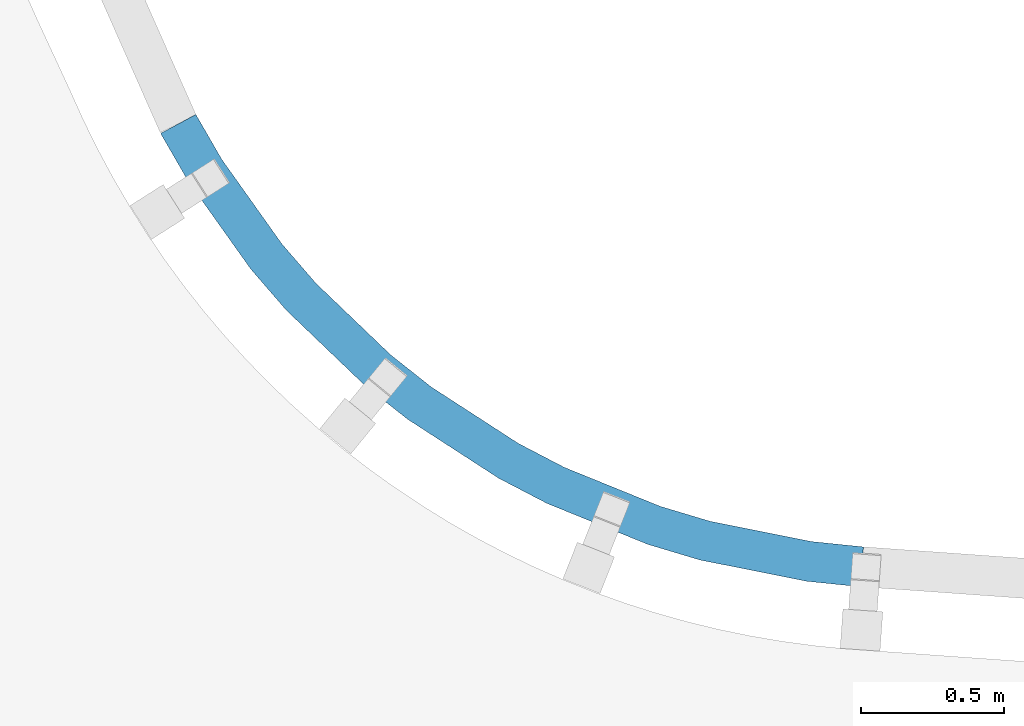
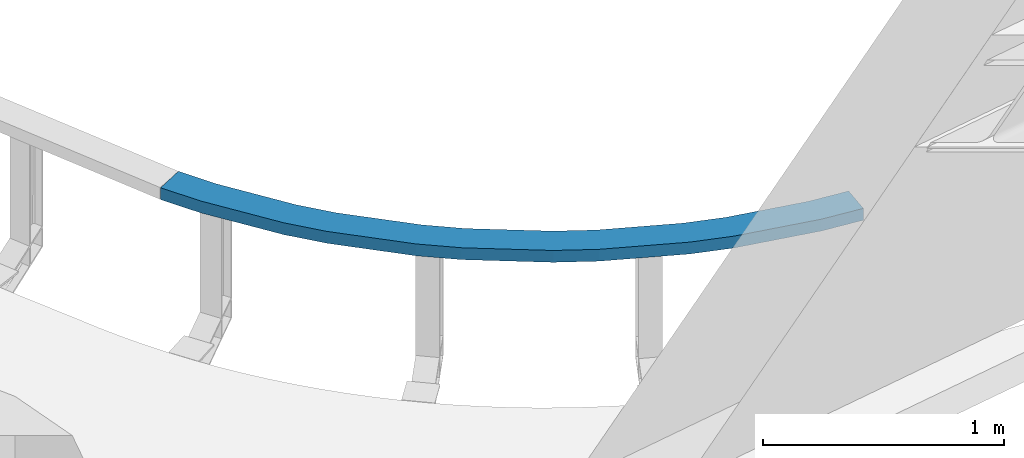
# One storey, part 55 of 68: 1 beam.
"""IFC2X3 building model written with IfcOpenShell, lengths in millimetres."""

import ifcopenshell
import ifcopenshell.guid

model = None  # the IFC model being written
_history = None  # IfcOwnerHistory: only IFC2X3 demands one
_inside = {}  # id of a spatial element -> (the spatial element, [elements in it])
_under = {}  # id of a project, library or spatial element -> (it, [spatial elements below it])
_declared = {}  # id of a project -> (the project, [libraries it declares])
_typed = {}  # id of a type object -> (the type object, [elements of that type])
_made_of = {}  # id of a material, layer set ... -> (it, [elements and type objects made of it])


def new_model(schema):
    """Start an empty IFC model of exactly this schema.

    Asked for "IFC4X3", IfcOpenShell would pick the latest addendum, in which some entities
    have other attributes; the version numbers below select the first issue.
    IFC2X3 requires an IfcOwnerHistory on every rooted entity: one is made here for all.
    """
    global model, _history
    if schema == "IFC4X3":
        model = ifcopenshell.file(schema_version=(4, 3, 0, 0))
    else:
        model = ifcopenshell.file(schema=schema)
    _inside.clear()
    _under.clear()
    _declared.clear()
    _typed.clear()
    _made_of.clear()
    _history = None
    if model.schema == "IFC2X3":
        org = make("IfcOrganization", Name="unknown")
        user = make(
            "IfcPersonAndOrganization",
            ThePerson=make("IfcPerson", FamilyName="unknown"),
            TheOrganization=org,
        )
        app = make(
            "IfcApplication",
            ApplicationDeveloper=org,
            Version="unknown",
            ApplicationFullName="unknown",
            ApplicationIdentifier="unknown",
        )
        _history = make(
            "IfcOwnerHistory",
            OwningUser=user,
            OwningApplication=app,
            ChangeAction="ADDED",
            CreationDate=0,
        )
    return model


def make(cls, **values):
    """One entity of the class cls with the attributes given. An attribute that is None is left unset."""
    return model.create_entity(
        cls, **{name: value for name, value in values.items() if value is not None}
    )


def entity(cls, *values):
    """Any entity or typed value of the class cls, its attributes in the order of the schema. None: left unset."""
    e = model.create_entity(cls)
    for i, value in enumerate(values):
        if value is not None:
            e[i] = value
    return e


def rooted(cls, **values):
    """An entity with a GlobalId (a new one), such as an element, a storey or a relation."""
    return make(cls, GlobalId=ifcopenshell.guid.new(), OwnerHistory=_history, **values)


def si_unit(unit_type, name, prefix=None):
    """IfcSIUnit, for example si_unit("LENGTHUNIT", "METRE", prefix="MILLI")."""
    return make("IfcSIUnit", UnitType=unit_type, Prefix=prefix, Name=name)


def converted_unit(unit_type, name, factor, base, dimensions=None, offset=None):
    """IfcConversionBasedUnit, such as the inch: factor (a typed value) times the base unit."""
    return make(
        "IfcConversionBasedUnit"
        if offset is None
        else "IfcConversionBasedUnitWithOffset",
        ConversionOffset=offset,
        Dimensions=None
        if dimensions is None
        else entity("IfcDimensionalExponents", *dimensions),
        UnitType=unit_type,
        Name=name,
        ConversionFactor=make(
            "IfcMeasureWithUnit", ValueComponent=factor, UnitComponent=base
        ),
    )


def derived_unit(unit_type, elements):
    """IfcDerivedUnit: a product of units, each with its exponent."""
    return make(
        "IfcDerivedUnit",
        Elements=[
            make("IfcDerivedUnitElement", Unit=unit, Exponent=power)
            for unit, power in elements
        ],
        UnitType=unit_type,
    )


def assignment(units):
    """IfcUnitAssignment: the units of a project."""
    return None if units is None else make("IfcUnitAssignment", Units=units)


def point(xyz):
    """IfcCartesianPoint."""
    return None if xyz is None else make("IfcCartesianPoint", Coordinates=xyz)


def direction(xyz):
    """IfcDirection."""
    return None if xyz is None else make("IfcDirection", DirectionRatios=xyz)


def frame(location, z_axis=None, x_axis=None):
    """IfcAxis2Placement3D, a coordinate frame: its origin and axes. An axis left out is left unset."""
    return make(
        "IfcAxis2Placement3D",
        Location=point(location),
        Axis=direction(z_axis),
        RefDirection=direction(x_axis),
    )


def origin():
    """The frame at (0, 0, 0) with its axes left unset."""
    return frame((0.0, 0.0, 0.0))


def place(relative_to, where):
    """IfcLocalPlacement: puts the frame where relative to a parent placement (None: the world)."""
    return make(
        "IfcLocalPlacement", PlacementRelTo=relative_to, RelativePlacement=where
    )


def context(
    kind, dimensions, precision=None, world=None, true_north=None, identifier=None
):
    """IfcGeometricRepresentationContext, for example the 3D "Model" context."""
    return make(
        "IfcGeometricRepresentationContext",
        ContextIdentifier=identifier,
        ContextType=kind,
        CoordinateSpaceDimension=dimensions,
        Precision=precision,
        WorldCoordinateSystem=world,
        TrueNorth=true_north,
    )


def subcontext(parent, identifier, kind, view, scale=None):
    """IfcGeometricRepresentationSubContext, for example "Body" below "Model"."""
    return make(
        "IfcGeometricRepresentationSubContext",
        ContextIdentifier=identifier,
        ContextType=kind,
        ParentContext=parent,
        TargetScale=scale,
        TargetView=view,
    )


def project(units=None, contexts=None):
    """IfcProject with its units and contexts."""
    return rooted(
        "IfcProject",
        Name="project",
        RepresentationContexts=contexts,
        UnitsInContext=assignment(units),
    )


def spatial(cls, under=None, at=None, **own):
    """A site, building, storey or space (cls), placed at a placement, below another one or the project."""
    s = rooted(cls, ObjectPlacement=at, **own)
    if under is not None:
        _under.setdefault(under.id(), (under, []))[1].append(s)
    return s


def faces_of(points, faces, orient=None, outer=None):
    """IfcFace entities. A face is a list of loops; a loop is a list of indices into points, from 0.

    orient and outer hold one flag for each loop. By default every Orientation is true, the
    first loop of a face is its IfcFaceOuterBound and the others are IfcFaceBound.
    """
    made = []
    for i, loops in enumerate(faces):
        bounds = []
        for j, loop in enumerate(loops):
            is_outer = j == 0 if outer is None else outer[i][j]
            bounds.append(
                make(
                    "IfcFaceOuterBound" if is_outer else "IfcFaceBound",
                    Bound=make("IfcPolyLoop", Polygon=[points[k] for k in loop]),
                    Orientation=True if orient is None else orient[i][j],
                )
            )
        made.append(make("IfcFace", Bounds=bounds))
    return made


def faceted_brep(points, faces, orient=None, outer=None, voids=None):
    """IfcFacetedBrep: a solid bounded by flat faces; with voids (closed shells), ...WithVoids."""
    shared = [point(p) for p in points]
    hull = make("IfcClosedShell", CfsFaces=faces_of(shared, faces, orient, outer))
    if voids is None:
        return make("IfcFacetedBrep", Outer=hull)
    return make(
        "IfcFacetedBrepWithVoids",
        Outer=hull,
        Voids=[
            make(cls, CfsFaces=faces_of(shared, fs, o, b)) for cls, fs, o, b in voids
        ],
    )


def shape(context_of_items, identifier, shape_type, items):
    """IfcShapeRepresentation: the items that make up one representation, for example the "Body"."""
    return make(
        "IfcShapeRepresentation",
        ContextOfItems=context_of_items,
        RepresentationIdentifier=identifier,
        RepresentationType=shape_type,
        Items=items,
    )


def material(Name=None, Category=None):
    """IfcMaterial."""
    return make("IfcMaterial", Name=Name, Category=Category)


def made_of(thing, what):
    """Note that an element or type object is made of a material, layer set ...; save() writes the relation."""
    if what is not None:
        _made_of.setdefault(what.id(), (what, []))[1].append(thing)
    return thing


def type_object(cls, material=None, **own):
    """A type object (cls), such as IfcWallType, which elements share."""
    return made_of(rooted(cls, **own), material)


def element(
    cls,
    number,
    at=None,
    inside=None,
    cuts=None,
    type_object=None,
    material=None,
    context=None,
    identifier="Body",
    shape_type=None,
    held_by="IfcProductDefinitionShape",
    body=None,
    shapes=None,
    **own,
):
    """One element of the class cls, such as IfcWall. Its Tag is "e" and its number.

    at: its placement. inside: the storey or other place that contains it. cuts: it is an
    opening in that element (IfcRelVoidsElement). A single representation is given by context,
    identifier, shape_type and body (its items); several are given by shapes. held_by: the class
    of the entity that holds the representations. save() writes the other relations.
    """
    e = rooted(cls, Tag="e%d" % number, ObjectPlacement=at, **own)
    if body is not None:
        shapes = [shape(context, identifier, shape_type, body)]
    if shapes is not None:
        e.Representation = make(held_by, Representations=shapes)
    if inside is not None:
        _inside.setdefault(inside.id(), (inside, []))[1].append(e)
    if cuts is not None:
        rooted(
            "IfcRelVoidsElement", RelatingBuildingElement=cuts, RelatedOpeningElement=e
        )
    if type_object is not None:
        _typed.setdefault(type_object.id(), (type_object, []))[1].append(e)
    return made_of(e, material)


def aggregate(whole, parts):
    """IfcRelAggregates: a whole, such as a stair, and the parts it consists of."""
    return rooted("IfcRelAggregates", RelatingObject=whole, RelatedObjects=parts)


def save(model, path):
    """Write the relations noted so far, then the file.

    IfcRelAggregates (storeys below a building ...), IfcRelContainedInSpatialStructure (elements
    in a storey), IfcRelDefinesByType, IfcRelAssociatesMaterial and IfcRelDeclares: one each for
    every whole, place, type object, material and project.
    """
    for whole, parts in _under.values():
        aggregate(whole, parts)
    for where, things in _inside.values():
        rooted(
            "IfcRelContainedInSpatialStructure",
            RelatedElements=things,
            RelatingStructure=where,
        )
    for kind, things in _typed.values():
        rooted("IfcRelDefinesByType", RelatedObjects=things, RelatingType=kind)
    for what, things in _made_of.values():
        rooted("IfcRelAssociatesMaterial", RelatedObjects=things, RelatingMaterial=what)
    for by, libraries in _declared.values():
        rooted("IfcRelDeclares", RelatingContext=by, RelatedDefinitions=libraries)
    model.write(path)


model = new_model("IFC2X3")

# Units and contexts
model_context = context("Model", 3, precision=0.01, world=origin(), true_north=direction((6.12303176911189e-17, 1.0)))
body_context = subcontext(model_context, "Body", "Model", "MODEL_VIEW")
ifc_project = project(units=[si_unit("LENGTHUNIT", "METRE", prefix="MILLI"), si_unit("AREAUNIT", "SQUARE_METRE", prefix="MILLI"), si_unit("VOLUMEUNIT", "CUBIC_METRE"), converted_unit("PLANEANGLEUNIT", "DEGREE", entity("IfcRatioMeasure", 0.0174532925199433), si_unit("PLANEANGLEUNIT", "RADIAN"), dimensions=[0, 0, 0, 0, 0, 0, 0]), si_unit("MASSUNIT", "GRAM", prefix="KILO"), derived_unit("MASSDENSITYUNIT", [(si_unit("MASSUNIT", "GRAM", prefix="KILO"), 1), (si_unit("LENGTHUNIT", "METRE"), -3)]), derived_unit("MOMENTOFINERTIAUNIT", [(si_unit("LENGTHUNIT", "METRE"), 4)]), si_unit("TIMEUNIT", "SECOND"), si_unit("FREQUENCYUNIT", "HERTZ"), si_unit("THERMODYNAMICTEMPERATUREUNIT", "DEGREE_CELSIUS"), derived_unit("THERMALTRANSMITTANCEUNIT", [(si_unit("MASSUNIT", "GRAM", prefix="KILO"), 1), (si_unit("THERMODYNAMICTEMPERATUREUNIT", "KELVIN"), -1), (si_unit("TIMEUNIT", "SECOND"), -3)]), derived_unit("VOLUMETRICFLOWRATEUNIT", [(si_unit("LENGTHUNIT", "METRE"), 3), (si_unit("TIMEUNIT", "SECOND"), -1)]), si_unit("ELECTRICCURRENTUNIT", "AMPERE"), si_unit("ELECTRICVOLTAGEUNIT", "VOLT"), si_unit("POWERUNIT", "WATT"), si_unit("FORCEUNIT", "NEWTON", prefix="KILO"), si_unit("ILLUMINANCEUNIT", "LUX"), si_unit("LUMINOUSFLUXUNIT", "LUMEN"), si_unit("LUMINOUSINTENSITYUNIT", "CANDELA"), derived_unit("USERDEFINED", [(si_unit("MASSUNIT", "GRAM", prefix="KILO"), -1), (si_unit("LENGTHUNIT", "METRE"), -2), (si_unit("TIMEUNIT", "SECOND"), 3), (si_unit("LUMINOUSFLUXUNIT", "LUMEN"), 1)]), derived_unit("LINEARVELOCITYUNIT", [(si_unit("LENGTHUNIT", "METRE"), 1), (si_unit("TIMEUNIT", "SECOND"), -1)]), si_unit("PRESSUREUNIT", "PASCAL"), derived_unit("USERDEFINED", [(si_unit("LENGTHUNIT", "METRE"), -2), (si_unit("MASSUNIT", "GRAM", prefix="KILO"), 1), (si_unit("TIMEUNIT", "SECOND"), -2)]), derived_unit("LINEARFORCEUNIT", [(si_unit("MASSUNIT", "GRAM", prefix="KILO"), 1), (si_unit("LENGTHUNIT", "METRE"), 1), (si_unit("TIMEUNIT", "SECOND"), -2), (si_unit("LENGTHUNIT", "METRE"), -1)]), derived_unit("PLANARFORCEUNIT", [(si_unit("MASSUNIT", "GRAM", prefix="KILO"), 1), (si_unit("LENGTHUNIT", "METRE"), 1), (si_unit("TIMEUNIT", "SECOND"), -2), (si_unit("LENGTHUNIT", "METRE"), -2)])], contexts=[model_context])

# Site, building, storey
site_placement = place(None, origin())
site = spatial("IfcSite", under=ifc_project, at=site_placement, Name="Theater aan de Parade", CompositionType="ELEMENT")
building_placement = place(site_placement, origin())
building = spatial("IfcBuilding", under=site, at=building_placement, Name="Theater aan de Parade", CompositionType="ELEMENT")
storey_placement = place(building_placement, frame((0.0, 0.0, 8750.0)))
storey = spatial("IfcBuildingStorey", under=building, at=storey_placement, Name="02 tweede verdieping", CompositionType="ELEMENT", Elevation=8750.0)

# Beam
ifc_material = material(Name="00_PBT_MAT_staal_S355")
beam_type = type_object("IfcBeamType", Name="28_PBT_SF_staal_UNP-profiel:S355_UNP140", PredefinedType="NOTDEFINED")
beam_placement = place(storey_placement, frame((57862.6552928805, 25534.3901026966, 0.0)))
element("IfcBeam", 1, at=beam_placement, inside=storey, type_object=beam_type, material=ifc_material, Name="28_PBT_SF_staal_UNP-profiel:S355_UNP140", ObjectType="28_PBT_SF_staal_UNP-profiel:S355_UNP140", context=body_context, shape_type="Brep", body=[
    faceted_brep([(-403.023984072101, -2993.29441748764, -1398.0), (-403.023984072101, -2993.29441748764, -1458.0), (-213.797824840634, -3012.72804806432, -1458.0), (-213.797824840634, -3012.72804806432, -1398.0), (-402.625801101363, -2990.33707770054, -1458.0), (-213.586595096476, -3009.75150807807, -1458.0), (-402.173227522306, -2986.97577410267, -1456.67380120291), (-213.346511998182, -3006.36838159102, -1456.67380120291), (-401.960734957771, -2985.39757322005, -1453.39872611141), (-213.233788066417, -3004.77993441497, -1453.39872611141), (-401.542313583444, -2982.28992103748, -1414.20254777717), (-213.011822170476, -3001.65210614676, -1414.20254777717), (-401.117328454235, -2979.13351927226, -1407.65239759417), (-212.786374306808, -2998.47521179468, -1407.65239759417), (-400.212181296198, -2972.41091207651, -1405.0), (-212.306208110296, -2991.70895882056, -1405.0), (-387.15443993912, -2875.42992371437, -1405.0), (-205.379283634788, -2894.09833219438, -1405.0), (-386.249292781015, -2868.70731651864, -1407.65239759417), (-204.899117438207, -2887.33207922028, -1407.65239759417), (-385.824307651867, -2865.55091475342, -1414.20254777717), (-204.6736695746, -2884.15518486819, -1414.20254777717), (-385.405886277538, -2862.44326257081, -1453.39872611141), (-204.451703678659, -2881.02735659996, -1453.39872611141), (-385.193393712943, -2860.8650616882, -1456.67380120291), (-204.338979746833, -2879.43890942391, -1456.67380120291), (-384.740820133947, -2857.50375809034, -1458.0), (-204.098896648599, -2876.05578293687, -1458.0), (-384.342637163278, -2854.54641830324, -1458.0), (-203.887666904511, -2873.07924295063, -1458.0), (-384.342637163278, -2854.54641830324, -1398.0), (-203.887666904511, -2873.07924295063, -1398.0), (-775.936165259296, -2918.93180272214, -1398.0), (-775.936165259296, -2918.93180272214, -1458.0), (-775.169549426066, -2916.04793232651, -1458.0), (-774.298216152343, -2912.77013382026, -1456.67380120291), (-773.889107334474, -2911.23114028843, -1453.39872611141), (-773.083526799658, -2908.20069171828, -1414.20254777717), (-772.265309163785, -2905.12270465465, -1407.65239759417), (-770.522642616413, -2898.56710764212, -1405.0), (-745.382764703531, -2803.99542450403, -1405.0), (-743.640098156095, -2797.43982749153, -1407.65239759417), (-742.821880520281, -2794.36184042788, -1414.20254777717), (-742.016299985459, -2791.33139185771, -1453.39872611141), (-741.607191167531, -2789.79239832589, -1456.67380120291), (-740.735857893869, -2786.51459981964, -1458.0), (-739.969242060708, -2783.630729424, -1458.0), (-739.969242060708, -2783.630729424, -1398.0), (-958.142996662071, -2864.29778470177, -1398.0), (-958.142996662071, -2864.29778470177, -1458.0), (-957.196362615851, -2861.46789207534, -1458.0), (-956.120421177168, -2858.25144454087, -1456.67380120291), (-955.615244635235, -2856.74125654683, -1453.39872611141), (-954.620496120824, -2853.76752926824, -1414.20254777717), (-953.610143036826, -2850.74715328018, -1407.65239759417), (-951.45826015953, -2844.31425821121, -1405.0), (-920.414987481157, -2751.51268530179, -1405.0), (-918.263104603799, -2745.07979023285, -1407.65239759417), (-917.252751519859, -2742.05941424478, -1414.20254777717), (-916.258003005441, -2739.08568696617, -1453.39872611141), (-915.75282646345, -2737.57549897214, -1456.67380120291), (-914.676885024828, -2734.35905143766, -1458.0), (-913.730250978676, -2731.52915881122, -1458.0), (-913.730250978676, -2731.52915881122, -1398.0), (-1310.44730691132, -2721.20702213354, -1398.0), (-1310.44730691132, -2721.20702213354, -1458.0), (-1309.15260033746, -2718.51850150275, -1458.0), (-1307.68104070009, -2715.46273695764, -1456.67380120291), (-1306.99011331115, -2714.02799291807, -1453.39872611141), (-1305.62960082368, -2711.20282313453, -1414.20254777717), (-1304.24774604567, -2708.33333505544, -1407.65239759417), (-1301.304626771, -2702.22180596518, -1405.0), (-1258.84690050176, -2614.05629006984, -1405.0), (-1255.90378122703, -2607.94476097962, -1407.65239759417), (-1254.52192644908, -2605.07527290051, -1414.20254777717), (-1253.1614139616, -2602.25010311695, -1453.39872611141), (-1252.47048657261, -2600.8153590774, -1456.67380120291), (-1250.9989269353, -2597.75959453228, -1458.0), (-1249.7042203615, -2595.07107390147, -1458.0), (-1249.7042203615, -2595.07107390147, -1398.0), (-1479.14733822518, -2633.31786028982, -1398.0), (-1479.14733822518, -2633.31786028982, -1458.0), (-1477.68595799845, -2630.71617312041, -1458.0), (-1476.02495758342, -2627.75910322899, -1456.67380120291), (-1475.2450838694, -2626.3706983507, -1453.39872611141), (-1473.70942622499, -2623.63677550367, -1414.20254777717), (-1472.14967879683, -2620.85996574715, -1407.65239759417), (-1468.82767796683, -2614.94582596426, -1405.0), (-1420.90416935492, -2529.62786750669, -1405.0), (-1417.58216852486, -2523.71372772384, -1407.65239759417), (-1416.02242109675, -2520.9369179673, -1414.20254777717), (-1414.48676345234, -2518.20299512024, -1453.39872611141), (-1413.70688973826, -2516.81459024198, -1456.67380120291), (-1412.04588932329, -2513.85752035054, -1458.0), (-1410.58450909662, -2511.2558331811, -1458.0), (-1410.58450909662, -2511.2558331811, -1398.0), (-1798.29998638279, -2426.59369497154, -1398.0), (-1798.29998638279, -2426.59369497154, -1458.0), (-1796.52328708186, -2424.19624885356, -1458.0), (-1794.5038959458, -2421.47131873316, -1456.67380120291), (-1793.555750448, -2420.19190823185, -1453.39872611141), (-1791.68874704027, -2417.67260737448, -1414.20254777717), (-1789.79245604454, -2415.11378637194, -1407.65239759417), (-1785.75367377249, -2409.66392613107, -1405.0), (-1727.48980603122, -2331.04370971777, -1405.0), (-1723.45102375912, -2325.59384947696, -1407.65239759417), (-1721.55473276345, -2323.03502847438, -1414.20254777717), (-1719.68772935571, -2320.51572761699, -1453.39872611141), (-1718.73958385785, -2319.23631711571, -1456.67380120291), (-1716.72019272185, -2316.51138699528, -1458.0), (-1714.94349342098, -2314.11394087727, -1458.0), (-1714.94349342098, -2314.11394087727, -1398.0), (-1947.48665481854, -2308.57868196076, -1398.0), (-1947.48665481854, -2308.57868196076, -1458.0), (-1945.56256083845, -2306.29783329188, -1458.0), (-1943.37564134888, -2303.70542748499, -1456.67380120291), (-1942.34883785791, -2302.48823986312, -1453.39872611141), (-1940.32694815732, -2300.09146274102, -1414.20254777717), (-1938.27334117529, -2297.65708749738, -1407.65239759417), (-1933.89950219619, -2292.47227588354, -1405.0), (-1870.80207365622, -2217.67567686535, -1405.0), (-1866.42823467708, -2212.49086525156, -1407.65239759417), (-1864.3746276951, -2210.05649000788, -1414.20254777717), (-1862.35273799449, -2207.65971288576, -1453.39872611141), (-1861.32593450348, -2206.44252526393, -1456.67380120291), (-1859.13901501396, -2203.85011945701, -1458.0), (-1857.21492103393, -2201.56927078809, -1458.0), (-1857.21492103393, -2201.56927078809, -1398.0), (-2222.12421430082, -2045.58152556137, -1398.0), (-2222.12421430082, -2045.58152556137, -1458.0), (-2219.92878163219, -2043.56051499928, -1458.0), (-2217.433459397, -2041.26344041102, -1456.67380120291), (-2216.26185450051, -2040.18491684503, -1453.39872611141), (-2213.95483480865, -2038.0611845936, -1414.20254777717), (-2211.61162501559, -2035.9041374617, -1407.65239759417), (-2206.62098054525, -2031.30998828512, -1405.0), (-2134.62545571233, -1965.03434330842, -1405.0), (-2129.63481124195, -1960.44019413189, -1407.65239759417), (-2127.29160144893, -1958.28314699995, -1414.20254777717), (-2124.98458175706, -1956.15941474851, -1453.39872611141), (-2123.81297686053, -1955.08089118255, -1456.67380120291), (-2121.31765462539, -1952.78381659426, -1458.0), (-2119.12222195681, -1950.76280603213, -1458.0), (-2119.12222195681, -1950.76280603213, -1398.0), (-2346.48573014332, -1901.64258464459, -1398.0), (-2346.48573014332, -1901.64258464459, -1458.0), (-2344.16742975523, -1899.7637840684, -1458.0), (-2341.53245643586, -1897.62834492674, -1456.67380120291), (-2340.29528249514, -1896.6257125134, -1453.39872611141), (-2337.85915009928, -1894.65141833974, -1414.20254777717), (-2335.38480221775, -1892.64615351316, -1407.65239759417), (-2330.11485557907, -1888.37527522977, -1405.0), (-2254.09009037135, -1826.76316774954, -1405.0), (-2248.82014373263, -1822.49228946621, -1407.65239759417), (-2246.34579585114, -1820.48702463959, -1414.20254777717), (-2243.90966345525, -1818.51273046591, -1453.39872611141), (-2242.67248951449, -1817.51009805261, -1456.67380120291), (-2240.03751619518, -1815.37465891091, -1458.0), (-2237.71921580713, -1813.49585833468, -1458.0), (-2237.71921580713, -1813.49585833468, -1398.0), (-2566.82973361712, -1591.73644807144, -1398.0), (-2566.82973361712, -1591.73644807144, -1458.0), (-2564.2937359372, -1590.16383112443, -1458.0), (-2561.41132852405, -1588.37639938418, -1456.67380120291), (-2560.05797920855, -1587.53716357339, -1453.39872611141), (-2557.39308464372, -1585.88461539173, -1414.20254777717), (-2554.68638601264, -1584.20614377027, -1407.65239759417), (-2548.92157118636, -1580.63128028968, -1405.0), (-2465.75778914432, -1529.05995037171, -1405.0), (-2459.99297431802, -1525.4850868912, -1407.65239759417), (-2457.28627568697, -1523.80661526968, -1414.20254777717), (-2454.62138112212, -1522.15406708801, -1453.39872611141), (-2453.26803180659, -1521.31483127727, -1456.67380120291), (-2450.38562439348, -1519.52739953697, -1458.0), (-2447.8496267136, -1517.95478258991, -1458.0), (-2447.8496267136, -1517.95478258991, -1398.0), (-2661.93820644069, -1426.99852368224, -1398.0), (-2661.93820644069, -1426.99852368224, -1458.0), (-2659.30824270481, -1425.58866587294, -1458.0), (-2656.31903375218, -1423.98622568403, -1456.67380120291), (-2654.91553892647, -1423.23384719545, -1453.39872611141), (-2652.15190230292, -1421.7523306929, -1414.20254777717), (-2649.34491265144, -1420.24757371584, -1407.65239759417), (-2643.36649474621, -1417.04269333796, -1405.0), (-2557.1212538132, -1370.80877581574, -1405.0), (-2551.14283590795, -1367.60389543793, -1407.65239759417), (-2548.3358462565, -1366.09913846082, -1414.20254777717), (-2545.57220963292, -1364.61762195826, -1453.39872611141), (-2544.16871480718, -1363.86524346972, -1456.67380120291), (-2541.17950585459, -1362.26280328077, -1458.0), (-2538.54954211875, -1360.85294547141, -1458.0), (-2538.54954211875, -1360.85294547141, -1398.0)], [[[0, 1, 2, 3]], [[1, 4, 5, 2]], [[4, 6, 7, 5]], [[6, 8, 9, 7]], [[8, 10, 11, 9]], [[10, 12, 13, 11]], [[12, 14, 15, 13]], [[14, 16, 17, 15]], [[16, 18, 19, 17]], [[18, 20, 21, 19]], [[20, 22, 23, 21]], [[22, 24, 25, 23]], [[24, 26, 27, 25]], [[26, 28, 29, 27]], [[28, 30, 31, 29]], [[30, 0, 3, 31]], [[32, 33, 1, 0]], [[33, 34, 4, 1]], [[34, 35, 6, 4]], [[35, 36, 8, 6]], [[36, 37, 10, 8]], [[37, 38, 12, 10]], [[38, 39, 14, 12]], [[39, 40, 16, 14]], [[40, 41, 18, 16]], [[41, 42, 20, 18]], [[42, 43, 22, 20]], [[43, 44, 24, 22]], [[44, 45, 26, 24]], [[45, 46, 28, 26]], [[46, 47, 30, 28]], [[47, 32, 0, 30]], [[48, 49, 33, 32]], [[49, 50, 34, 33]], [[50, 51, 35, 34]], [[51, 52, 36, 35]], [[52, 53, 37, 36]], [[53, 54, 38, 37]], [[54, 55, 39, 38]], [[55, 56, 40, 39]], [[56, 57, 41, 40]], [[57, 58, 42, 41]], [[58, 59, 43, 42]], [[59, 60, 44, 43]], [[60, 61, 45, 44]], [[61, 62, 46, 45]], [[62, 63, 47, 46]], [[63, 48, 32, 47]], [[64, 65, 49, 48]], [[65, 66, 50, 49]], [[66, 67, 51, 50]], [[67, 68, 52, 51]], [[68, 69, 53, 52]], [[69, 70, 54, 53]], [[70, 71, 55, 54]], [[71, 72, 56, 55]], [[72, 73, 57, 56]], [[73, 74, 58, 57]], [[74, 75, 59, 58]], [[75, 76, 60, 59]], [[76, 77, 61, 60]], [[77, 78, 62, 61]], [[78, 79, 63, 62]], [[79, 64, 48, 63]], [[80, 81, 65, 64]], [[81, 82, 66, 65]], [[82, 83, 67, 66]], [[83, 84, 68, 67]], [[84, 85, 69, 68]], [[85, 86, 70, 69]], [[86, 87, 71, 70]], [[87, 88, 72, 71]], [[88, 89, 73, 72]], [[89, 90, 74, 73]], [[90, 91, 75, 74]], [[91, 92, 76, 75]], [[92, 93, 77, 76]], [[93, 94, 78, 77]], [[94, 95, 79, 78]], [[95, 80, 64, 79]], [[96, 97, 81, 80]], [[97, 98, 82, 81]], [[98, 99, 83, 82]], [[99, 100, 84, 83]], [[100, 101, 85, 84]], [[101, 102, 86, 85]], [[102, 103, 87, 86]], [[103, 104, 88, 87]], [[104, 105, 89, 88]], [[105, 106, 90, 89]], [[106, 107, 91, 90]], [[107, 108, 92, 91]], [[108, 109, 93, 92]], [[109, 110, 94, 93]], [[110, 111, 95, 94]], [[111, 96, 80, 95]], [[112, 113, 97, 96]], [[113, 114, 98, 97]], [[114, 115, 99, 98]], [[115, 116, 100, 99]], [[116, 117, 101, 100]], [[117, 118, 102, 101]], [[118, 119, 103, 102]], [[119, 120, 104, 103]], [[120, 121, 105, 104]], [[121, 122, 106, 105]], [[122, 123, 107, 106]], [[123, 124, 108, 107]], [[124, 125, 109, 108]], [[125, 126, 110, 109]], [[126, 127, 111, 110]], [[127, 112, 96, 111]], [[128, 129, 113, 112]], [[129, 130, 114, 113]], [[130, 131, 115, 114]], [[131, 132, 116, 115]], [[132, 133, 117, 116]], [[133, 134, 118, 117]], [[134, 135, 119, 118]], [[135, 136, 120, 119]], [[136, 137, 121, 120]], [[137, 138, 122, 121]], [[138, 139, 123, 122]], [[139, 140, 124, 123]], [[140, 141, 125, 124]], [[141, 142, 126, 125]], [[142, 143, 127, 126]], [[143, 128, 112, 127]], [[144, 145, 129, 128]], [[145, 146, 130, 129]], [[146, 147, 131, 130]], [[147, 148, 132, 131]], [[148, 149, 133, 132]], [[149, 150, 134, 133]], [[150, 151, 135, 134]], [[151, 152, 136, 135]], [[152, 153, 137, 136]], [[153, 154, 138, 137]], [[154, 155, 139, 138]], [[155, 156, 140, 139]], [[156, 157, 141, 140]], [[157, 158, 142, 141]], [[158, 159, 143, 142]], [[159, 144, 128, 143]], [[160, 161, 145, 144]], [[161, 162, 146, 145]], [[162, 163, 147, 146]], [[163, 164, 148, 147]], [[164, 165, 149, 148]], [[165, 166, 150, 149]], [[166, 167, 151, 150]], [[167, 168, 152, 151]], [[168, 169, 153, 152]], [[169, 170, 154, 153]], [[170, 171, 155, 154]], [[171, 172, 156, 155]], [[172, 173, 157, 156]], [[173, 174, 158, 157]], [[174, 175, 159, 158]], [[175, 160, 144, 159]], [[176, 177, 161, 160]], [[177, 178, 162, 161]], [[178, 179, 163, 162]], [[179, 180, 164, 163]], [[180, 181, 165, 164]], [[181, 182, 166, 165]], [[182, 183, 167, 166]], [[183, 184, 168, 167]], [[184, 185, 169, 168]], [[185, 186, 170, 169]], [[186, 187, 171, 170]], [[187, 188, 172, 171]], [[188, 189, 173, 172]], [[189, 190, 174, 173]], [[190, 191, 175, 174]], [[191, 176, 160, 175]], [[3, 2, 5, 7, 9, 11, 13, 15, 17, 19, 21, 23, 25, 27, 29, 31]], [[191, 190, 189, 188, 187, 186, 185, 184, 183, 182, 181, 180, 179, 178, 177, 176]]]),
])

save(model, "model.ifc")
